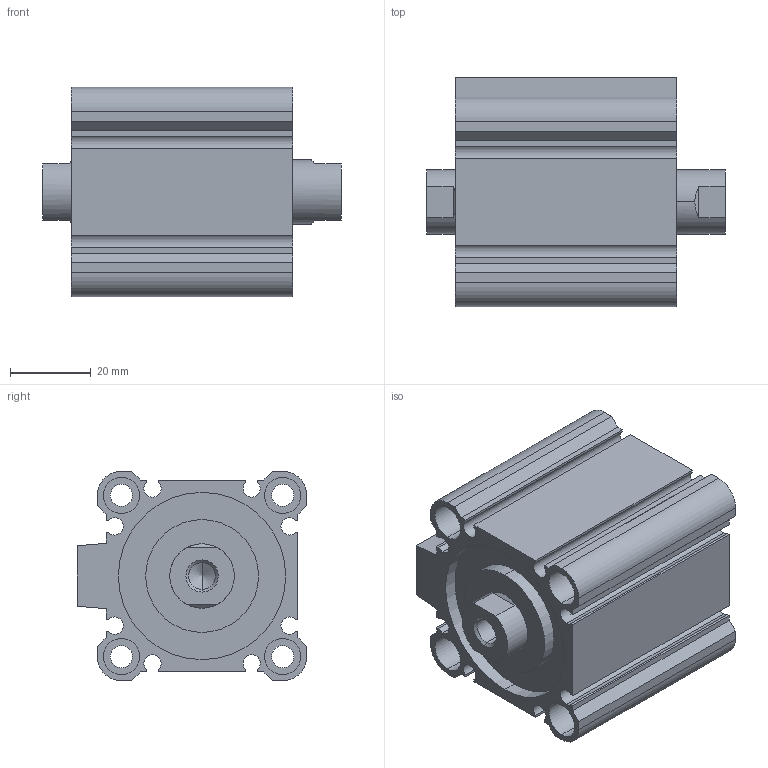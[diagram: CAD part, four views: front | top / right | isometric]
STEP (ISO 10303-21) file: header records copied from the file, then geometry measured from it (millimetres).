
FILE_DESCRIPTION (( 'STEP AP203' ), '1' );
FILE_NAME ('CCMB40-5F-P.STEP', '2020-08-05T11:22:53', ( '' ), ( '' ), 'SwSTEP 2.0', 'SolidWorks 2019', '' );
FILE_SCHEMA (( 'CONFIG_CONTROL_DESIGN' ));
Length unit declared in the file: millimetre
Products named in the file (1): CCMB40-5F-P
Bounding box: 74 x 57 x 52 mm (x, y, z)
Volume: 115229.3 mm3; surface area: 42487.5 mm2
Topology: 2 solids, 2 shells, 164 faces, 414 edges, 270 vertices
Faces by surface type: plane 78, cylinder 74, cone 12
Entity records: 5025 total; most frequent: DIRECTION 888, CARTESIAN_POINT 869, ORIENTED_EDGE 820, EDGE_CURVE 410, AXIS2_PLACEMENT_3D 321, VERTEX_POINT 270, LINE 246, VECTOR 246
